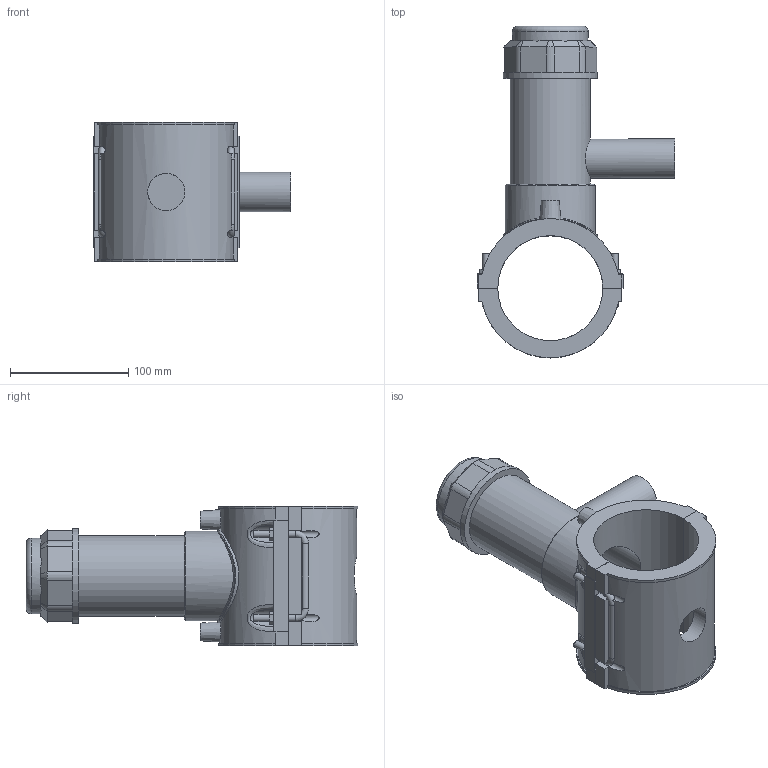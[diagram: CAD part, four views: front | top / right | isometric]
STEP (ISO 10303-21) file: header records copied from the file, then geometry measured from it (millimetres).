
FILE_DESCRIPTION(/* description */ ('PLASSON TAPPING SADDLE 3''''IPS x 1''''IPS'),/* implementation_level */ '2;1');
FILE_NAME(/* name */ 'C:\Dropbox\KIMPROJECTS-Inventor 2019\99-16-3568-Processing Inch\ASTM ElectroFusion 2021\5963B\5963BB03030010.ipt.stp',/* time_stamp */ '2021-08-30T09:55:09+03:00',/* author */ ('KIM'),/* organization */ (''),/* preprocessor_version */ 'ST-DEVELOPER v17.2',/* originating_system */ 'Autodesk Inventor 2019',/* authorisation */ '');
FILE_SCHEMA (('AUTOMOTIVE_DESIGN { 1 0 10303 214 3 1 1 }'));
Length unit declared in the file: millimetre
Products named in the file (1): 5963BB03030010
Bounding box: 166.35 x 280.2 x 118.11 mm (x, y, z)
Volume: 860771.1 mm3; surface area: 178278.3 mm2
Topology: 1 solids, 1 shells, 211 faces, 568 edges, 375 vertices
Faces by surface type: plane 128, cylinder 57, cone 15, bspline 6, torus 5
Full cylindrical faces by diameter (mm): 4 x2, 6 x7, 10 x2, 26.64 x1, 31.36 x1, 33.3 x1, 55.881 x1, 63.864 x1, 67.856 x1, 75.838 x1, 79.83 x1
Entity records: 8493 total; most frequent: CARTESIAN_POINT 3106, ORIENTED_EDGE 1158, DIRECTION 1055, EDGE_CURVE 579, VERTEX_POINT 375, AXIS2_PLACEMENT_3D 357, LINE 341, VECTOR 341
